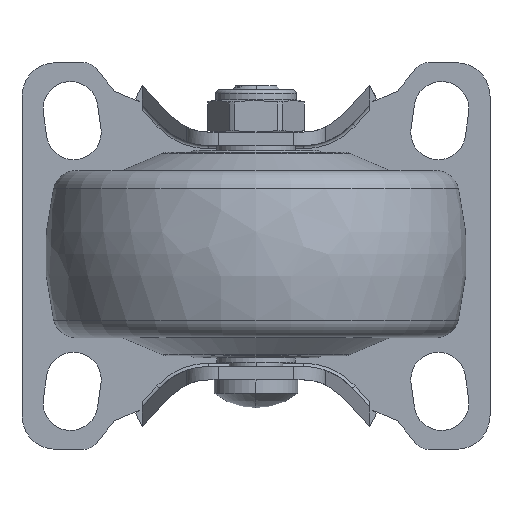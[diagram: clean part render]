
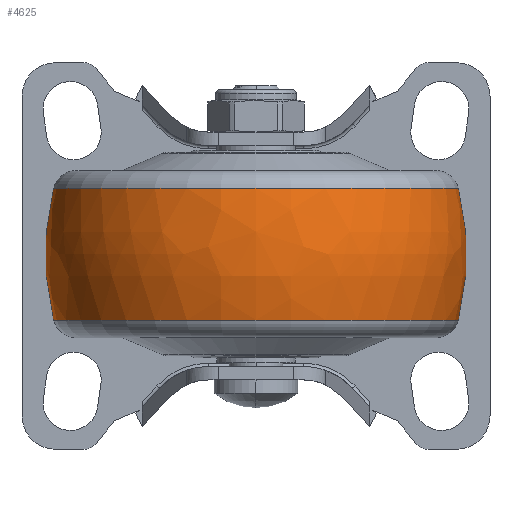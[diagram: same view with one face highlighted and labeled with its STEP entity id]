
A CAD part, front view. The second image highlights one B-rep face of the part: STEP entity #4625.
In plain terms, the highlighted free-form (B-spline) face has degree [3, 3] with [7, 4] control points.
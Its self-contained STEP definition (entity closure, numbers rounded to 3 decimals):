
#4111=CARTESIAN_POINT('',(0.,-8.5,0.));
#4112=DIRECTION('',(0.,0.,1.));
#4113=DIRECTION('',(0.247,0.969,0.));
#4114=AXIS2_PLACEMENT_3D('',#4111,#4112,#4113);
#4116=CARTESIAN_POINT('',(0.,8.5,0.));
#4117=DIRECTION('',(0.,0.,-1.));
#4118=DIRECTION('',(0.247,-0.969,0.));
#4119=AXIS2_PLACEMENT_3D('',#4116,#4117,#4118);
#4121=CARTESIAN_POINT('',(9.863,0.,0.));
#4122=DIRECTION('',(-1.,0.,0.));
#4123=DIRECTION('',(0.,1.,0.));
#4124=AXIS2_PLACEMENT_3D('',#4121,#4122,#4123);
#4146=CARTESIAN_POINT('',(-9.863,0.,0.));
#4147=DIRECTION('',(-1.,0.,0.));
#4148=DIRECTION('',(0.,1.,0.));
#4149=AXIS2_PLACEMENT_3D('',#4146,#4147,#4148);
#4276=CARTESIAN_POINT('',(9.863,30.265,0.));
#4278=VERTEX_POINT('',#4276);
#4279=CARTESIAN_POINT('',(-9.863,30.265,0.));
#4280=VERTEX_POINT('',#4279);
#4316=CARTESIAN_POINT('',(9.863,-30.265,0.));
#4318=VERTEX_POINT('',#4316);
#4319=CARTESIAN_POINT('',(-9.863,-30.265,0.));
#4320=VERTEX_POINT('',#4319);
#4587=CARTESIAN_POINT('',(-10.249,-30.105,
1.894));
#4588=CARTESIAN_POINT('',(-3.494,-31.892,
2.006));
#4589=CARTESIAN_POINT('',(3.494,-31.892,2.006));
#4590=CARTESIAN_POINT('',(10.249,-30.105,1.894));
#4591=CARTESIAN_POINT('',(-10.249,-31.271,
-16.633));
#4592=CARTESIAN_POINT('',(-3.494,-33.127,
-17.62));
#4593=CARTESIAN_POINT('',(3.494,-33.127,
-17.62));
#4594=CARTESIAN_POINT('',(10.249,-31.271,
-16.633));
#4595=CARTESIAN_POINT('',(-10.249,-18.563,
-30.165));
#4596=CARTESIAN_POINT('',(-3.494,-19.665,
-31.955));
#4597=CARTESIAN_POINT('',(3.494,-19.665,
-31.955));
#4598=CARTESIAN_POINT('',(10.249,-18.563,
-30.165));
#4599=CARTESIAN_POINT('',(-10.249,0.,-30.165));
#4600=CARTESIAN_POINT('',(-3.494,0.,-31.955));
#4601=CARTESIAN_POINT('',(3.494,0.,-31.955));
#4602=CARTESIAN_POINT('',(10.249,0.,-30.165));
#4603=CARTESIAN_POINT('',(-10.249,18.563,
-30.165));
#4604=CARTESIAN_POINT('',(-3.494,19.665,
-31.955));
#4605=CARTESIAN_POINT('',(3.494,19.665,-31.955));
#4606=CARTESIAN_POINT('',(10.249,18.563,-30.165));
#4607=CARTESIAN_POINT('',(-10.249,31.271,
-16.633));
#4608=CARTESIAN_POINT('',(-3.494,33.127,
-17.62));
#4609=CARTESIAN_POINT('',(3.494,33.127,-17.62));
#4610=CARTESIAN_POINT('',(10.249,31.271,-16.633));
#4611=CARTESIAN_POINT('',(-10.249,30.105,1.894));
#4612=CARTESIAN_POINT('',(-3.494,31.892,2.006));
#4613=CARTESIAN_POINT('',(3.494,31.892,2.006));
#4614=CARTESIAN_POINT('',(10.249,30.105,1.894));
#4615=(BOUNDED_SURFACE()B_SPLINE_SURFACE(3,3,((#4587,#4588,#4589,#4590),(#4591,
#4592,#4593,#4594),(#4595,#4596,#4597,#4598),(#4599,#4600,#4601,#4602),(#4603,
#4604,#4605,#4606),(#4607,#4608,#4609,#4610),(#4611,#4612,#4613,#4614)),
.UNSPECIFIED.,.F.,.F.,.F.)B_SPLINE_SURFACE_WITH_KNOTS((4,3,4),(4,4),(0.,1.,
2.),(0.,1.),.UNSPECIFIED.)GEOMETRIC_REPRESENTATION_ITEM()RATIONAL_B_SPLINE_SURFACE(((1.207,1.181,1.181,1.207),(
0.953,0.932,0.932,0.953),(
0.953,0.932,0.932,0.953),(
1.207,1.181,1.181,1.207),(
0.953,0.932,0.932,0.953),(
0.953,0.932,0.932,0.953),(
1.207,1.181,1.181,1.207)))REPRESENTATION_ITEM('')SURFACE());
#4617=ORIENTED_EDGE('',*,*,#4616,.T.);
#4619=ORIENTED_EDGE('',*,*,#4618,.T.);
#4621=ORIENTED_EDGE('',*,*,#4620,.F.);
#4622=ORIENTED_EDGE('',*,*,#4580,.F.);
#4623=EDGE_LOOP('',(#4617,#4619,#4621,#4622));
#4624=FACE_OUTER_BOUND('',#4623,.F.);
#4115=CIRCLE('',#4114,40.);
#4120=CIRCLE('',#4119,40.);
#4125=CIRCLE('',#4124,30.265);
#4150=CIRCLE('',#4149,30.265);
#4580=EDGE_CURVE('',#4278,#4318,#4125,.T.);
#4616=EDGE_CURVE('',#4278,#4280,#4115,.T.);
#4618=EDGE_CURVE('',#4280,#4320,#4150,.T.);
#4620=EDGE_CURVE('',#4318,#4320,#4120,.T.);
#4625=ADVANCED_FACE('',(#4624),#4615,.T.);
